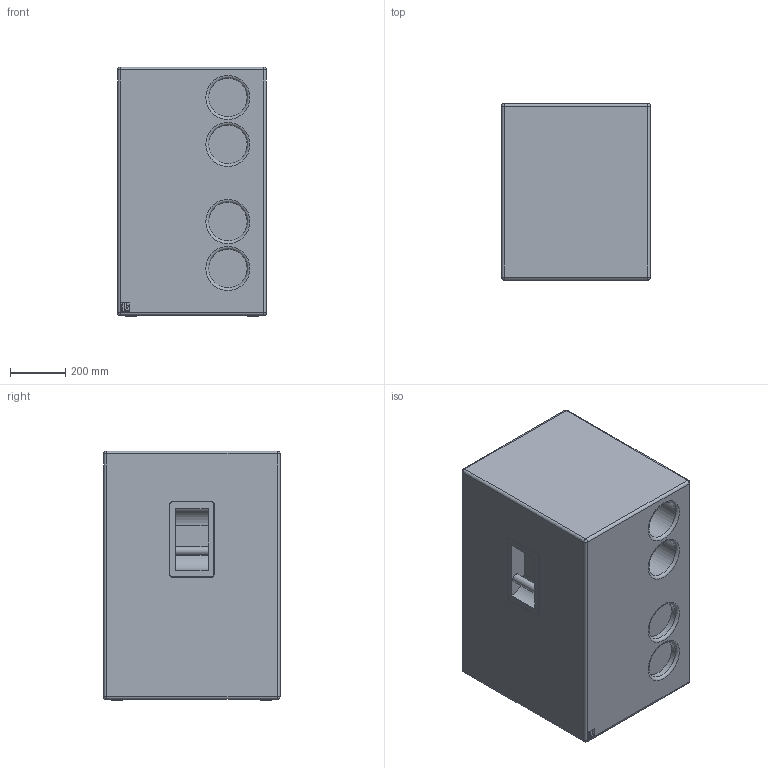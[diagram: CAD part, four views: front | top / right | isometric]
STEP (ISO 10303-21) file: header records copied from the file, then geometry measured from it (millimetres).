
FILE_DESCRIPTION(/* description */ (''),/* implementation_level */ '2;1');
FILE_NAME(/* name */ 'B18 B.stp',/* time_stamp */ '2024-08-21T16:24:39+02:00',/* author */ ('d.streicher'),/* organization */ (''),/* preprocessor_version */ 'ST-DEVELOPER v20',/* originating_system */ 'Autodesk Inventor 2025',/* authorisation */ '');
FILE_SCHEMA (('AUTOMOTIVE_DESIGN { 1 0 10303 214 3 1 1 }'));
Length unit declared in the file: millimetre
Products named in the file (1): B18 B
Bounding box: 540 x 641.5 x 905 mm (x, y, z)
Volume: 300541278 mm3; surface area: 3078984.3 mm2
Topology: 1 solids, 1 shells, 134 faces, 304 edges, 192 vertices
Faces by surface type: plane 62, cylinder 56, torus 8, sphere 8
Full cylindrical faces by diameter (mm): 22 x2, 30 x2, 40 x4, 140 x4
Entity records: 3988 total; most frequent: DIRECTION 702, CARTESIAN_POINT 631, ORIENTED_EDGE 608, EDGE_CURVE 304, AXIS2_PLACEMENT_3D 263, VERTEX_POINT 192, LINE 176, VECTOR 176
